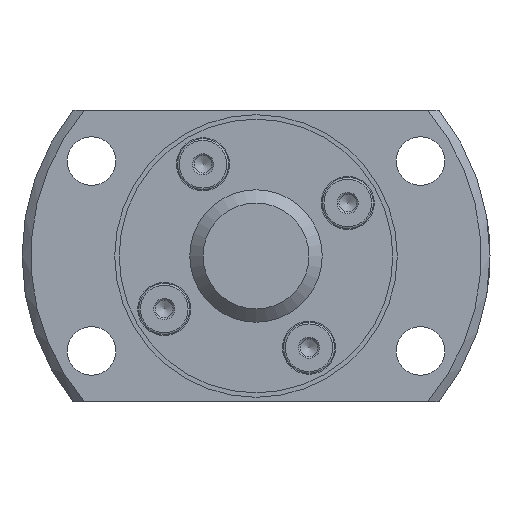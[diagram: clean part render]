
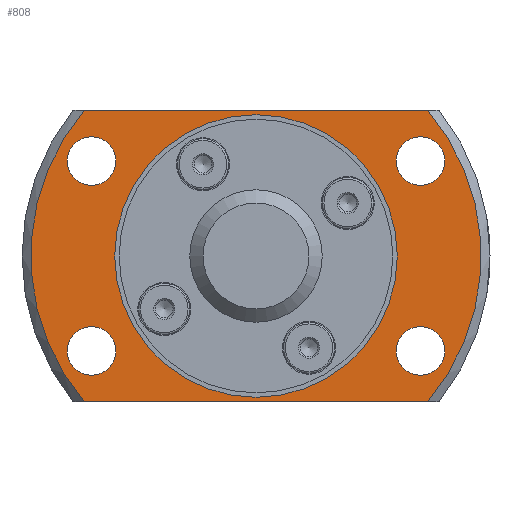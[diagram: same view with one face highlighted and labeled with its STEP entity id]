
A CAD part, left-side view. The second image highlights one B-rep face of the part: STEP entity #808.
In plain terms, the highlighted planar face has unit normal (-1, 0, 0).
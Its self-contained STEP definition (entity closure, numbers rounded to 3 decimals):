
#32=LINE('',#1447,#40);
#33=LINE('',#1448,#41);
#40=VECTOR('',#1127,1000.);
#41=VECTOR('',#1128,1000.);
#171=ORIENTED_EDGE('',*,*,#320,.T.);
#172=ORIENTED_EDGE('',*,*,#321,.F.);
#173=ORIENTED_EDGE('',*,*,#295,.F.);
#174=ORIENTED_EDGE('',*,*,#322,.F.);
#175=ORIENTED_EDGE('',*,*,#318,.F.);
#176=ORIENTED_EDGE('',*,*,#323,.T.);
#177=ORIENTED_EDGE('',*,*,#324,.T.);
#178=ORIENTED_EDGE('',*,*,#325,.T.);
#179=ORIENTED_EDGE('',*,*,#326,.T.);
#295=EDGE_CURVE('',#377,#376,#449,.T.);
#318=EDGE_CURVE('',#396,#397,#467,.T.);
#320=EDGE_CURVE('',#398,#398,#468,.T.);
#321=EDGE_CURVE('',#376,#396,#32,.T.);
#322=EDGE_CURVE('',#397,#377,#33,.T.);
#323=EDGE_CURVE('',#399,#399,#469,.T.);
#324=EDGE_CURVE('',#400,#400,#470,.T.);
#325=EDGE_CURVE('',#401,#401,#471,.T.);
#326=EDGE_CURVE('',#402,#402,#472,.T.);
#376=VERTEX_POINT('',#1370);
#377=VERTEX_POINT('',#1375);
#396=VERTEX_POINT('',#1437);
#397=VERTEX_POINT('',#1439);
#398=VERTEX_POINT('',#1446);
#399=VERTEX_POINT('',#1450);
#400=VERTEX_POINT('',#1452);
#401=VERTEX_POINT('',#1454);
#402=VERTEX_POINT('',#1456);
#449=CIRCLE('',#900,25.5);
#467=CIRCLE('',#929,25.5);
#468=CIRCLE('',#931,16.);
#469=CIRCLE('',#932,2.75);
#470=CIRCLE('',#933,2.75);
#471=CIRCLE('',#934,2.75);
#472=CIRCLE('',#935,2.75);
#548=EDGE_LOOP('',(#171));
#549=EDGE_LOOP('',(#172,#173,#174,#175));
#550=EDGE_LOOP('',(#176));
#551=EDGE_LOOP('',(#177));
#552=EDGE_LOOP('',(#178));
#553=EDGE_LOOP('',(#179));
#678=FACE_BOUND('',#548,.T.);
#679=FACE_BOUND('',#549,.T.);
#680=FACE_BOUND('',#550,.T.);
#681=FACE_BOUND('',#551,.T.);
#682=FACE_BOUND('',#552,.T.);
#683=FACE_BOUND('',#553,.T.);
#775=PLANE('',#930);
#808=ADVANCED_FACE('',(#678,#679,#680,#681,#682,#683),#775,.T.);
#900=AXIS2_PLACEMENT_3D('',#1376,#1061,#1062);
#929=AXIS2_PLACEMENT_3D('',#1438,#1121,#1122);
#930=AXIS2_PLACEMENT_3D('',#1444,#1123,#1124);
#931=AXIS2_PLACEMENT_3D('',#1445,#1125,#1126);
#932=AXIS2_PLACEMENT_3D('',#1449,#1129,#1130);
#933=AXIS2_PLACEMENT_3D('',#1451,#1131,#1132);
#934=AXIS2_PLACEMENT_3D('',#1453,#1133,#1134);
#935=AXIS2_PLACEMENT_3D('',#1455,#1135,#1136);
#1061=DIRECTION('',(1.,0.,0.));
#1062=DIRECTION('',(0.,0.,-1.));
#1121=DIRECTION('',(1.,0.,0.));
#1122=DIRECTION('',(0.,0.,-1.));
#1123=DIRECTION('',(-1.,0.,0.));
#1124=DIRECTION('',(0.,0.,1.));
#1125=DIRECTION('',(1.,0.,0.));
#1126=DIRECTION('',(0.,0.,-1.));
#1127=DIRECTION('',(0.,1.,0.));
#1128=DIRECTION('',(0.,-1.,0.));
#1129=DIRECTION('',(1.,0.,0.));
#1130=DIRECTION('',(0.,0.,-1.));
#1131=DIRECTION('',(1.,0.,0.));
#1132=DIRECTION('',(0.,0.,-1.));
#1133=DIRECTION('',(1.,0.,0.));
#1134=DIRECTION('',(0.,0.,-1.));
#1135=DIRECTION('',(1.,0.,0.));
#1136=DIRECTION('',(0.,0.,-1.));
#1370=CARTESIAN_POINT('',(6.,-19.442,-16.5));
#1375=CARTESIAN_POINT('',(6.,-19.442,16.5));
#1376=CARTESIAN_POINT('',(6.,0.,0.));
#1437=CARTESIAN_POINT('',(6.,19.442,-16.5));
#1438=CARTESIAN_POINT('',(6.,0.,0.));
#1439=CARTESIAN_POINT('',(6.,19.442,16.5));
#1444=CARTESIAN_POINT('',(6.,25.5,0.));
#1445=CARTESIAN_POINT('',(6.,0.,0.));
#1446=CARTESIAN_POINT('',(6.,0.,-16.));
#1447=CARTESIAN_POINT('',(6.,25.5,-16.5));
#1448=CARTESIAN_POINT('',(6.,25.5,16.5));
#1449=CARTESIAN_POINT('',(6.,-18.62,10.75));
#1450=CARTESIAN_POINT('',(6.,-18.62,8.));
#1451=CARTESIAN_POINT('',(6.,18.62,-10.75));
#1452=CARTESIAN_POINT('',(6.,18.62,-13.5));
#1453=CARTESIAN_POINT('',(6.,-18.62,-10.75));
#1454=CARTESIAN_POINT('',(6.,-18.62,-13.5));
#1455=CARTESIAN_POINT('',(6.,18.62,10.75));
#1456=CARTESIAN_POINT('',(6.,18.62,8.));
